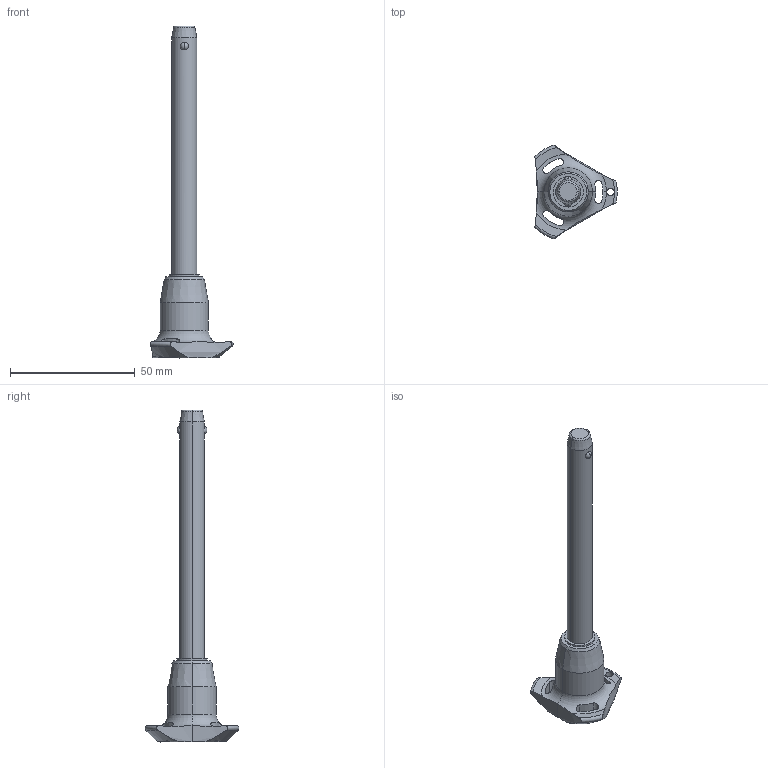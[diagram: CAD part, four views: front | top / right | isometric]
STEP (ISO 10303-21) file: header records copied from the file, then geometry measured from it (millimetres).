
FILE_DESCRIPTION (( 'STEP AP203' ), '1' );
FILE_NAME ('QR1704.M10-090-S.step', '2025-11-12T09:21:41', ( '' ), ( '' ), 'SwSTEP 2.0', 'SolidWorks 2019', '' );
FILE_SCHEMA (( 'CONFIG_CONTROL_DESIGN' ));
Length unit declared in the file: millimetre
Products named in the file (1): QR1704.M10-090-S
Bounding box: 33 x 37.51 x 132.9 mm (x, y, z)
Volume: 18148.5 mm3; surface area: 6991.9 mm2
Topology: 1 solids, 1 shells, 65 faces, 174 edges, 109 vertices
Faces by surface type: cylinder 30, cone 14, torus 11, sphere 6, plane 4
Entity records: 2758 total; most frequent: CARTESIAN_POINT 1085, ORIENTED_EDGE 348, DIRECTION 331, EDGE_CURVE 174, AXIS2_PLACEMENT_3D 147, VERTEX_POINT 109, CIRCLE 81, EDGE_LOOP 71
